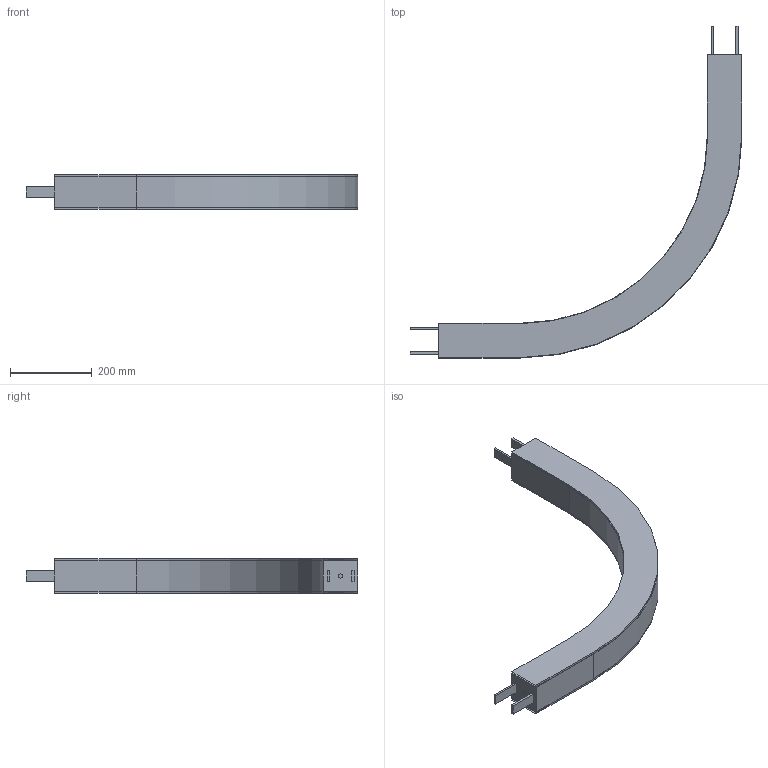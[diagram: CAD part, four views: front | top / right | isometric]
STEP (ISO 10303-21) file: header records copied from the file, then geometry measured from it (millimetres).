
FILE_DESCRIPTION(/* description */ ('Horizontaler Gleitbogen, 90°, R500'),/* implementation_level */ '2;1');
FILE_NAME(/* name */ 'T:\vdz0\Step Daten Website\modulflex FM-System\Horizontale Gleitbögen\FMBP 90R500_43825.stp',/* time_stamp */ '2024-09-03T10:29:32+02:00',/* author */ ('lzb0'),/* organization */ ('modular automation GmbH'),/* preprocessor_version */ 'ST-DEVELOPER v18.1',/* originating_system */ 'Autodesk Inventor 2021',/* authorisation */ '');
FILE_SCHEMA (('AUTOMOTIVE_DESIGN { 1 0 10303 214 3 1 1 }'));
Length unit declared in the file: millimetre
Products named in the file (1): FMBP 90R500
Bounding box: 812.5 x 812.5 x 85 mm (x, y, z)
Volume: 7640913.3 mm3; surface area: 845885.9 mm2
Topology: 5 solids, 9 shells, 52 faces, 126 edges, 84 vertices
Faces by surface type: plane 44, cylinder 8
Full cylindrical faces by diameter (mm): 10 x2
Entity records: 1596 total; most frequent: CARTESIAN_POINT 270, DIRECTION 250, ORIENTED_EDGE 232, EDGE_CURVE 126, LINE 110, VECTOR 110, VERTEX_POINT 84, AXIS2_PLACEMENT_3D 70
